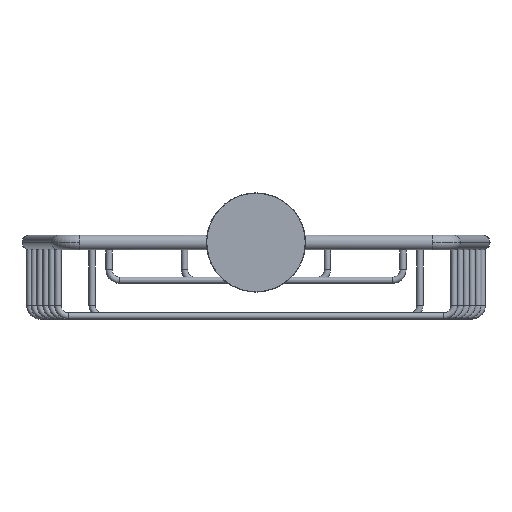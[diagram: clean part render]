
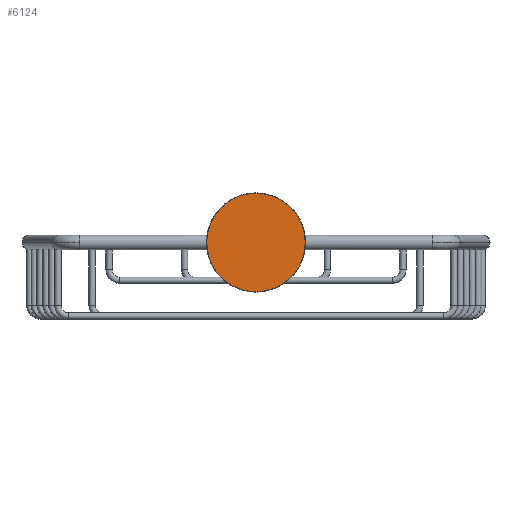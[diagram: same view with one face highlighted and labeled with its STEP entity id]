
A CAD part, front view. The second image highlights one B-rep face of the part: STEP entity #6124.
In plain terms, the highlighted planar face has unit normal (0, -1, 0).
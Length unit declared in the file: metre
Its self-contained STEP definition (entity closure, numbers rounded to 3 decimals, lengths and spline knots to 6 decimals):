
#20=EDGE_CURVE('',#21,#23,#25,.F.);
#21=VERTEX_POINT('',#22);
#22=CARTESIAN_POINT('',(0.0,-0.018,-0.023454));
#23=VERTEX_POINT('',#24);
#24=CARTESIAN_POINT('',(0.0,-0.018,0.023454));
#25=CIRCLE('',#26,0.023454);
#26=AXIS2_PLACEMENT_3D('',#27,#28,#29);
#27=CARTESIAN_POINT('',(0.0,-0.018,0.0));
#28=DIRECTION('',(0.0,1.0,0.0));
#29=DIRECTION('',(0.0,0.0,1.0));
#6124=ADVANCED_FACE('',(#6130),#6125,.F.);
#6125=PLANE('',#6126);
#6126=AXIS2_PLACEMENT_3D('',#6127,#6128,#6129);
#6127=CARTESIAN_POINT('',(0.0,-0.018,0.0237));
#6128=DIRECTION('',(0.0,1.0,0.0));
#6129=DIRECTION('',(0.0,0.0,1.0));
#6130=FACE_OUTER_BOUND('',#6131,.T.);
#6131=EDGE_LOOP('',(#6132,#6140));
#6132=ORIENTED_EDGE('',*,*,#6134,.T.);
#6133=CARTESIAN_POINT('',(0.0,-0.018,-0.023454));
#6134=EDGE_CURVE('',#23,#21,#6135,.F.);
#6135=(B_SPLINE_CURVE(3,(#6133,#6136,#6137,#6138),.UNSPECIFIED.,.F.,.U.)B_SPLINE_CURVE_WITH_KNOTS(
  (4,4),(0.0,1.0),.UNSPECIFIED.)BOUNDED_CURVE()CURVE()GEOMETRIC_REPRESENTATION_ITEM(
  )RATIONAL_B_SPLINE_CURVE((1.0,0.333,0.333,1.0)
  )REPRESENTATION_ITEM(''));
#6136=CARTESIAN_POINT('',(-0.046908,-0.018,-0.023454));
#6137=CARTESIAN_POINT('',(-0.046908,-0.018,0.023454));
#6138=CARTESIAN_POINT('',(0.0,-0.018,0.023454));
#6140=ORIENTED_EDGE('',*,*,#20,.T.);
